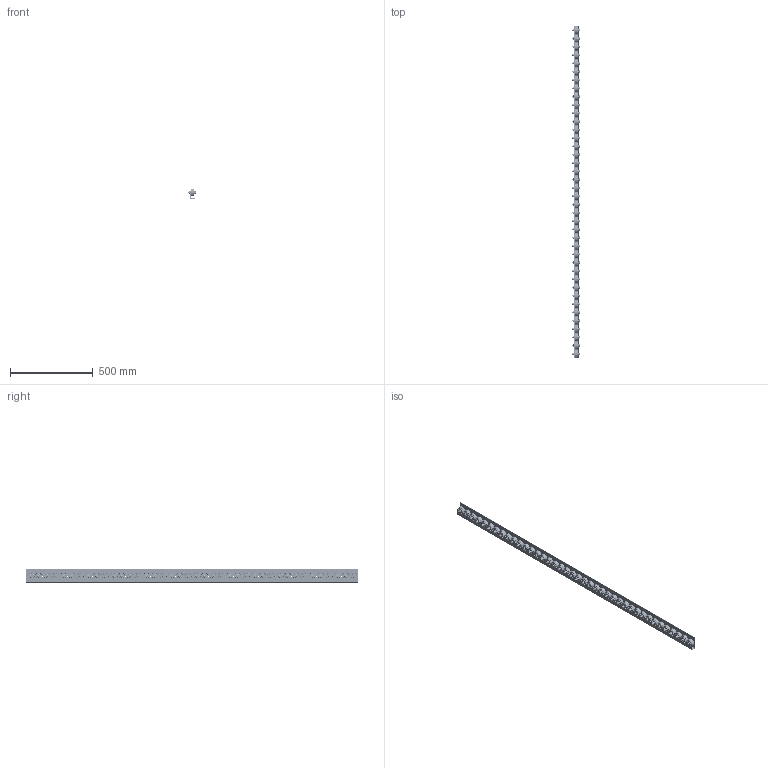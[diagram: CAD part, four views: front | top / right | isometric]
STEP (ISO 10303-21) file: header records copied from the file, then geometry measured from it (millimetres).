
FILE_DESCRIPTION( ( 'Unknown' ), '1' );
FILE_NAME( 'D:/Construktor/Listwy rolkowe 2015/Listwa T621L/Listwa T621L.stp', 'Unknown', ( 'Unknown' ), ( 'Unknown' ), 'PSStep 17.0.49', 'Unknown', ' ' );
FILE_SCHEMA( ( 'AUTOMOTIVE_DESIGN { 1 0 10303 214 1 1 1 1 }' ) );
Length unit declared in the file: millimetre
Products named in the file (9): Assem1; DIN_931_M8x35; DIN_931_M8x35-oa0; DIN_931_M8x35-oa1; Nut_DIN_980_M_M8_v10.50; 621 rolka; 621 rolka-oa2; 621 rolka-oa3; Ceownik T630GL
Assembly tree (121 placements, depth 2):
  Assem1
    DIN_931_M8x35  x38
    DIN_931_M8x35-oa0
    DIN_931_M8x35-oa1
    Nut_DIN_980_M_M8_v10.50  x40
    621 rolka  x38
    621 rolka-oa2
    621 rolka-oa3
    Ceownik T630GL
Bounding box: 45.3 x 2000 x 80 mm (x, y, z)
Volume: 1383223.3 mm3; surface area: 1029465.3 mm2
Topology: 121 solids, 121 shells, 3412 faces, 7470 edges, 4780 vertices
Faces by surface type: plane 1210, cylinder 1042, cone 600, torus 560
Full cylindrical faces by diameter (mm): 6.466 x40, 6.647 x40, 6.697 x40, 8 x80, 8.2 x398, 8.3 x40, 8.4 x40, 11.63 x40, 12.5 x40, 12.6 x80, 29.5 x80, 43.6 x80, 48 x40
Entity records: 23886 total; most frequent: DIRECTION 3384, CARTESIAN_POINT 3169, ORIENTED_EDGE 2156, EDGE_LOOP 1902, AXIS2_PLACEMENT_3D 1657, EDGE_CURVE 1078, FACE_OUTER_BOUND 1061, VERTEX_POINT 1018
